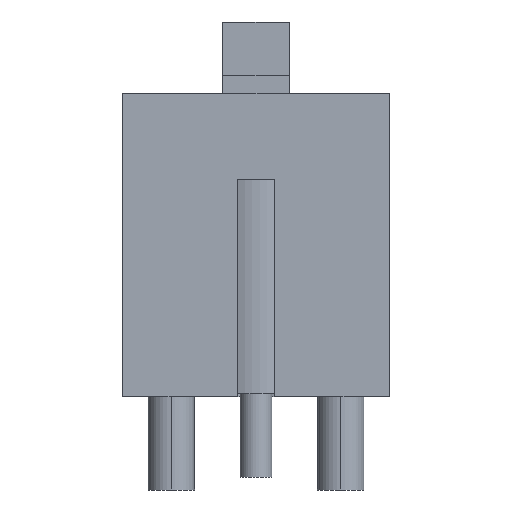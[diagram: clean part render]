
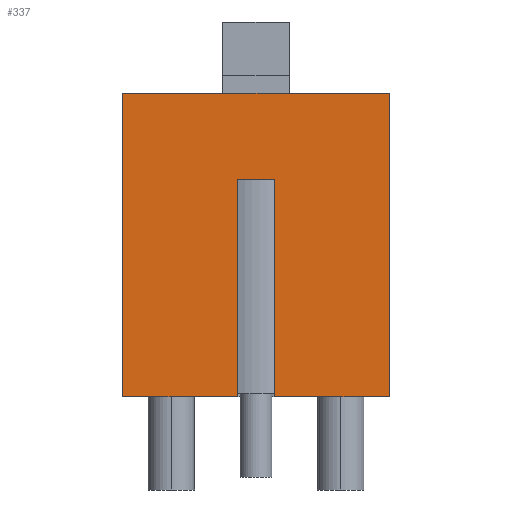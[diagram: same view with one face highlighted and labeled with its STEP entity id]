
A CAD part, front view. The second image highlights one B-rep face of the part: STEP entity #337.
In plain terms, the highlighted planar face has unit normal (0, -1, 0).
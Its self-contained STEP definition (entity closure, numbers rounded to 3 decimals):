
#337=ADVANCED_FACE('',(#541),#438,.F.);
#438=PLANE('',#2615);
#541=FACE_OUTER_BOUND('',#690,.T.);
#690=EDGE_LOOP('',(#1133,#1134,#1135,#1136,#1137,#1138,#1139,#1140));
#1133=ORIENTED_EDGE('',*,*,#1924,.F.);
#1134=ORIENTED_EDGE('',*,*,#1930,.T.);
#1135=ORIENTED_EDGE('',*,*,#1931,.F.);
#1136=ORIENTED_EDGE('',*,*,#1932,.T.);
#1137=ORIENTED_EDGE('',*,*,#1920,.F.);
#1138=ORIENTED_EDGE('',*,*,#1933,.F.);
#1139=ORIENTED_EDGE('',*,*,#1934,.F.);
#1140=ORIENTED_EDGE('',*,*,#1935,.T.);
#1633=VERTEX_POINT('',#4159);
#1634=VERTEX_POINT('',#4161);
#1635=VERTEX_POINT('',#4165);
#1636=VERTEX_POINT('',#4167);
#1641=VERTEX_POINT('',#4179);
#1642=VERTEX_POINT('',#4181);
#1643=VERTEX_POINT('',#4184);
#1644=VERTEX_POINT('',#4186);
#1920=EDGE_CURVE('',#1633,#1634,#2153,.T.);
#1924=EDGE_CURVE('',#1635,#1636,#2156,.T.);
#1930=EDGE_CURVE('',#1635,#1641,#2162,.T.);
#1931=EDGE_CURVE('',#1642,#1641,#2163,.T.);
#1932=EDGE_CURVE('',#1642,#1634,#2164,.T.);
#1933=EDGE_CURVE('',#1643,#1633,#2165,.T.);
#1934=EDGE_CURVE('',#1644,#1643,#2166,.T.);
#1935=EDGE_CURVE('',#1644,#1636,#2167,.T.);
#2153=LINE('',#4160,#2352);
#2156=LINE('',#4166,#2355);
#2162=LINE('',#4178,#2361);
#2163=LINE('',#4180,#2362);
#2164=LINE('',#4182,#2363);
#2165=LINE('',#4183,#2364);
#2166=LINE('',#4185,#2365);
#2167=LINE('',#4187,#2366);
#2352=VECTOR('',#3181,1.);
#2355=VECTOR('',#3186,1.);
#2361=VECTOR('',#3194,1.);
#2362=VECTOR('',#3195,1.);
#2363=VECTOR('',#3196,1.);
#2364=VECTOR('',#3197,1.);
#2365=VECTOR('',#3198,1.);
#2366=VECTOR('',#3199,1.);
#2615=AXIS2_PLACEMENT_3D('',#4188,#3200,#3201);
#3181=DIRECTION('',(-1.,0.,0.));
#3186=DIRECTION('',(-1.,0.,0.));
#3194=DIRECTION('',(0.,0.,1.));
#3195=DIRECTION('',(-1.,0.,0.));
#3196=DIRECTION('',(0.,0.,-1.));
#3197=DIRECTION('',(0.,0.,-1.));
#3198=DIRECTION('',(1.,0.,0.));
#3199=DIRECTION('',(0.,0.,-1.));
#3200=DIRECTION('',(0.,1.,0.));
#3201=DIRECTION('',(1.,0.,0.));
#4159=CARTESIAN_POINT('',(27.888,-4.,-4.559));
#4160=CARTESIAN_POINT('',(23.888,-4.,-4.559));
#4161=CARTESIAN_POINT('',(24.447,-4.,-4.559));
#4165=CARTESIAN_POINT('',(23.329,-4.,-4.559));
#4166=CARTESIAN_POINT('',(23.888,-4.,-4.559));
#4167=CARTESIAN_POINT('',(19.888,-4.,-4.559));
#4178=CARTESIAN_POINT('',(23.329,-4.,0.445));
#4179=CARTESIAN_POINT('',(23.329,-4.,1.981));
#4180=CARTESIAN_POINT('',(23.888,-4.,1.981));
#4181=CARTESIAN_POINT('',(24.447,-4.,1.981));
#4182=CARTESIAN_POINT('',(24.447,-4.,0.445));
#4183=CARTESIAN_POINT('',(27.888,-4.,0.445));
#4184=CARTESIAN_POINT('',(27.888,-4.,4.559));
#4185=CARTESIAN_POINT('',(23.888,-4.,4.559));
#4186=CARTESIAN_POINT('',(19.888,-4.,4.559));
#4187=CARTESIAN_POINT('',(19.888,-4.,0.445));
#4188=CARTESIAN_POINT('',(23.888,-4.,0.445));
